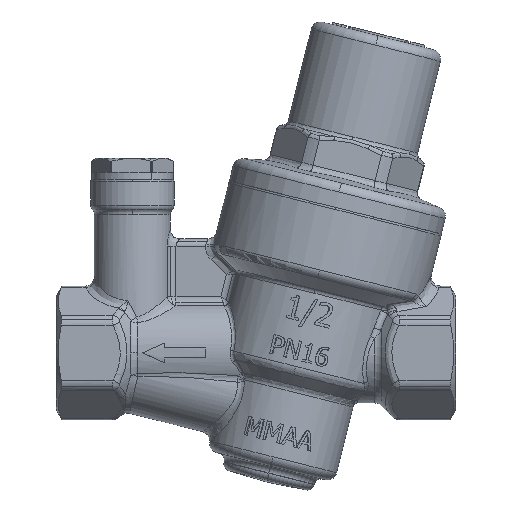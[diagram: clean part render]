
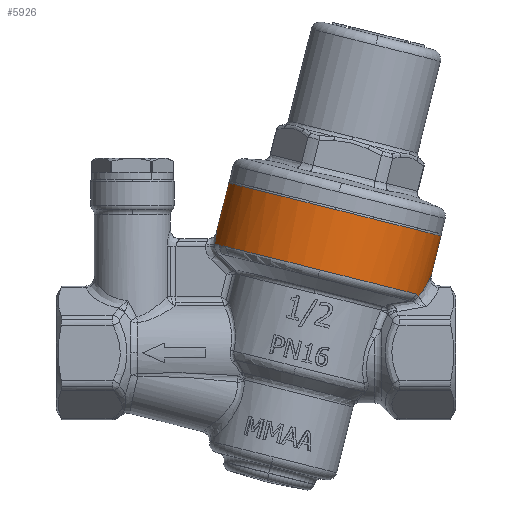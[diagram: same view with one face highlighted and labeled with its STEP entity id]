
A CAD part, top view. The second image highlights one B-rep face of the part: STEP entity #5926.
In plain terms, the highlighted cylindrical face has radius 23 mm (diameter 46 mm), a partial arc.
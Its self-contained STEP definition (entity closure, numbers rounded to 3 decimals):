
#186 = VERTEX_POINT ( 'NONE', #35662 ) ;
#233 = CARTESIAN_POINT ( 'NONE',  ( -31.893, 16.53, 0. ) ) ;
#262 = ORIENTED_EDGE ( 'NONE', *, *, #35989, .F. ) ;
#432 = CARTESIAN_POINT ( 'NONE',  ( -30.249, 13.213, -6.37 ) ) ;
#767 = DIRECTION ( 'NONE',  ( 0.242, -0.97, 0. ) ) ;
#801 = CARTESIAN_POINT ( 'NONE',  ( -31.647, 15.926, -2.07 ) ) ;
#1009 = LINE ( 'NONE', #12597, #19485 ) ;
#1151 = EDGE_CURVE ( 'NONE', #34263, #15395, #3091, .T. ) ;
#1566 = DIRECTION ( 'NONE',  ( 0.791, 0.197, 0.579 ) ) ;
#1778 = CARTESIAN_POINT ( 'NONE',  ( -8.419, 17.452, 0. ) ) ;
#2268 = DIRECTION ( 'NONE',  ( 0.242, -0.97, 0. ) ) ;
#2337 = DIRECTION ( 'NONE',  ( 0.242, -0.97, 0. ) ) ;
#2910 = CIRCLE ( 'NONE', #6491, 23. ) ;
#2958 = CARTESIAN_POINT ( 'NONE',  ( 10.723, 35.748, 0. ) ) ;
#3091 = B_SPLINE_CURVE_WITH_KNOTS ( 'NONE', 3,
 ( #26330, #3199, #432, #12194 ),
 .UNSPECIFIED., .F., .F.,
 ( 4, 4 ),
 ( 0., 1. ),
 .UNSPECIFIED. ) ;
#3199 = CARTESIAN_POINT ( 'NONE',  ( -31.106, 14.564, -4.234 ) ) ;
#3757 = VERTEX_POINT ( 'NONE', #2958 ) ;
#3771 = CARTESIAN_POINT ( 'NONE',  ( -31.779, 16.259, -1.541 ) ) ;
#3945 = CIRCLE ( 'NONE', #23592, 23. ) ;
#4139 = CARTESIAN_POINT ( 'NONE',  ( 13.499, 23.567, -3.409 ) ) ;
#5879 = CARTESIAN_POINT ( 'NONE',  ( -29.111, 11.927, -8.393 ) ) ;
#5926 = ADVANCED_FACE ( 'NONE', ( #7674 ), #16484, .T. ) ;
#6341 = DIRECTION ( 'NONE',  ( 0.162, 0.04, -0.986 ) ) ;
#6375 = CARTESIAN_POINT ( 'NONE',  ( 13.628, 22.949, -3.565 ) ) ;
#6491 = AXIS2_PLACEMENT_3D ( 'NONE', #32790, #32414, #6876 ) ;
#6539 = AXIS2_PLACEMENT_3D ( 'NONE', #22775, #767, #6341 ) ;
#6876 = DIRECTION ( 'NONE',  ( 0.791, 0.197, 0.579 ) ) ;
#7674 = FACE_OUTER_BOUND ( 'NONE', #10311, .T. ) ;
#8477 = EDGE_CURVE ( 'NONE', #9394, #27632, #1009, .T. ) ;
#9394 = VERTEX_POINT ( 'NONE', #24848 ) ;
#9749 = CARTESIAN_POINT ( 'NONE',  ( 13.253, 25.517, -1.263 ) ) ;
#10311 = EDGE_LOOP ( 'NONE', ( #24001, #11414, #36212, #36150, #33844, #262, #18238, #25712, #16284, #23574, #28455 ) ) ;
#11380 = AXIS2_PLACEMENT_3D ( 'NONE', #27778, #2268, #28148 ) ;
#11414 = ORIENTED_EDGE ( 'NONE', *, *, #25953, .F. ) ;
#11502 = EDGE_CURVE ( 'NONE', #24009, #35794, #26267, .T. ) ;
#12194 = CARTESIAN_POINT ( 'NONE',  ( -29.111, 11.927, -8.393 ) ) ;
#12597 = CARTESIAN_POINT ( 'NONE',  ( -32.356, 18.384, 0. ) ) ;
#12880 = CARTESIAN_POINT ( 'NONE',  ( -29.111, 11.927, -8.393 ) ) ;
#12982 = CARTESIAN_POINT ( 'NONE',  ( -11.594, 30.184, 0. ) ) ;
#13379 = DIRECTION ( 'NONE',  ( 0.162, 0.04, -0.986 ) ) ;
#13681 = CARTESIAN_POINT ( 'NONE',  ( -28.577, 12.426, -9.869 ) ) ;
#14006 = EDGE_CURVE ( 'NONE', #15395, #17390, #31740, .T. ) ;
#15300 = CARTESIAN_POINT ( 'NONE',  ( 13.274, 25.516, -0.153 ) ) ;
#15395 = VERTEX_POINT ( 'NONE', #5879 ) ;
#16284 = ORIENTED_EDGE ( 'NONE', *, *, #14006, .F. ) ;
#16484 = CYLINDRICAL_SURFACE ( 'NONE', #11380, 23. ) ;
#17390 = VERTEX_POINT ( 'NONE', #13681 ) ;
#17986 = CARTESIAN_POINT ( 'NONE',  ( -31.883, 16.503, -0.83 ) ) ;
#18085 = CARTESIAN_POINT ( 'NONE',  ( 13.272, 25.516, -0.307 ) ) ;
#18238 = ORIENTED_EDGE ( 'NONE', *, *, #26873, .F. ) ;
#18853 = EDGE_CURVE ( 'NONE', #3757, #35794, #24650, .T. ) ;
#19485 = VECTOR ( 'NONE', #21150, 1000. ) ;
#20234 = CIRCLE ( 'NONE', #6539, 23. ) ;
#20386 = CARTESIAN_POINT ( 'NONE',  ( -31.894, 16.53, -0.104 ) ) ;
#20649 = CARTESIAN_POINT ( 'NONE',  ( -11.594, 30.184, -23. ) ) ;
#21133 = DIRECTION ( 'NONE',  ( 0.242, -0.97, 0. ) ) ;
#21150 = DIRECTION ( 'NONE',  ( 0.242, -0.97, 0. ) ) ;
#21419 = CARTESIAN_POINT ( 'NONE',  ( 13.269, 25.516, -0.46 ) ) ;
#22558 = B_SPLINE_CURVE_WITH_KNOTS ( 'NONE', 3,
 ( #6375, #4139, #29475, #9749, #26328 ),
 .UNSPECIFIED., .F., .F.,
 ( 4, 1, 4 ),
 ( 0., 0.429, 1. ),
 .UNSPECIFIED. ) ;
#22775 = CARTESIAN_POINT ( 'NONE',  ( -8.419, 17.452, 0. ) ) ;
#23450 = EDGE_CURVE ( 'NONE', #3757, #34658, #3945, .T. ) ;
#23574 = ORIENTED_EDGE ( 'NONE', *, *, #1151, .F. ) ;
#23592 = AXIS2_PLACEMENT_3D ( 'NONE', #12982, #27078, #1566 ) ;
#24001 = ORIENTED_EDGE ( 'NONE', *, *, #8477, .F. ) ;
#24009 = VERTEX_POINT ( 'NONE', #28806 ) ;
#24227 = CARTESIAN_POINT ( 'NONE',  ( -28.81, 12.368, -9.365 ) ) ;
#24597 = CARTESIAN_POINT ( 'NONE',  ( -29.001, 12.216, -8.843 ) ) ;
#24650 = LINE ( 'NONE', #29852, #30665 ) ;
#24680 = CARTESIAN_POINT ( 'NONE',  ( 13.274, 25.516, 0. ) ) ;
#24848 = CARTESIAN_POINT ( 'NONE',  ( -33.911, 24.62, 0. ) ) ;
#25712 = ORIENTED_EDGE ( 'NONE', *, *, #34889, .F. ) ;
#25953 = EDGE_CURVE ( 'NONE', #34658, #9394, #2910, .T. ) ;
#26267 =( BOUNDED_CURVE ( )  B_SPLINE_CURVE ( 3, ( #21419, #18085, #15300, #32951 ),
 .UNSPECIFIED., .F., .F. ) 
 B_SPLINE_CURVE_WITH_KNOTS ( ( 4, 4 ),
 ( 6.263, 6.283 ),
 .UNSPECIFIED. ) 
 CURVE ( )  GEOMETRIC_REPRESENTATION_ITEM ( )  RATIONAL_B_SPLINE_CURVE ( ( 1., 1., 1., 1. ) ) 
 REPRESENTATION_ITEM ( '' )  );
#26328 = CARTESIAN_POINT ( 'NONE',  ( 13.269, 25.516, -0.46 ) ) ;
#26330 = CARTESIAN_POINT ( 'NONE',  ( -31.647, 15.926, -2.07 ) ) ;
#26622 = B_SPLINE_CURVE_WITH_KNOTS ( 'NONE', 3,
 ( #233, #20386, #17986, #3771, #801 ),
 .UNSPECIFIED., .F., .F.,
 ( 4, 1, 4 ),
 ( 0., 0.143, 1. ),
 .UNSPECIFIED. ) ;
#26873 = EDGE_CURVE ( 'NONE', #33628, #186, #20234, .T. ) ;
#27078 = DIRECTION ( 'NONE',  ( -0.242, 0.97, 0. ) ) ;
#27534 = CARTESIAN_POINT ( 'NONE',  ( -28.577, 12.426, -9.869 ) ) ;
#27632 = VERTEX_POINT ( 'NONE', #27978 ) ;
#27778 = CARTESIAN_POINT ( 'NONE',  ( -10.039, 23.948, 0. ) ) ;
#27978 = CARTESIAN_POINT ( 'NONE',  ( -31.893, 16.53, 0. ) ) ;
#28148 = DIRECTION ( 'NONE',  ( 0.97, 0.242, 0. ) ) ;
#28455 = ORIENTED_EDGE ( 'NONE', *, *, #33655, .F. ) ;
#28806 = CARTESIAN_POINT ( 'NONE',  ( 13.269, 25.516, -0.46 ) ) ;
#29475 = CARTESIAN_POINT ( 'NONE',  ( 13.284, 24.918, -2.661 ) ) ;
#29852 = CARTESIAN_POINT ( 'NONE',  ( 12.278, 29.512, 0. ) ) ;
#30665 = VECTOR ( 'NONE', #21133, 1000. ) ;
#31527 = CARTESIAN_POINT ( 'NONE',  ( -8.419, 17.452, -23. ) ) ;
#31740 = B_SPLINE_CURVE_WITH_KNOTS ( 'NONE', 3,
 ( #12880, #24597, #24227, #27534 ),
 .UNSPECIFIED., .F., .F.,
 ( 4, 4 ),
 ( 0., 1. ),
 .UNSPECIFIED. ) ;
#32414 = DIRECTION ( 'NONE',  ( -0.242, 0.97, 0. ) ) ;
#32615 = AXIS2_PLACEMENT_3D ( 'NONE', #1778, #2337, #13379 ) ;
#32790 = CARTESIAN_POINT ( 'NONE',  ( -11.594, 30.184, 0. ) ) ;
#32951 = CARTESIAN_POINT ( 'NONE',  ( 13.274, 25.516, 0. ) ) ;
#33231 = CIRCLE ( 'NONE', #32615, 23. ) ;
#33628 = VERTEX_POINT ( 'NONE', #31527 ) ;
#33655 = EDGE_CURVE ( 'NONE', #27632, #34263, #26622, .T. ) ;
#33844 = ORIENTED_EDGE ( 'NONE', *, *, #11502, .F. ) ;
#34263 = VERTEX_POINT ( 'NONE', #36579 ) ;
#34658 = VERTEX_POINT ( 'NONE', #20649 ) ;
#34889 = EDGE_CURVE ( 'NONE', #17390, #33628, #33231, .T. ) ;
#35662 = CARTESIAN_POINT ( 'NONE',  ( 13.628, 22.949, -3.565 ) ) ;
#35794 = VERTEX_POINT ( 'NONE', #24680 ) ;
#35989 = EDGE_CURVE ( 'NONE', #186, #24009, #22558, .T. ) ;
#36150 = ORIENTED_EDGE ( 'NONE', *, *, #18853, .T. ) ;
#36212 = ORIENTED_EDGE ( 'NONE', *, *, #23450, .F. ) ;
#36579 = CARTESIAN_POINT ( 'NONE',  ( -31.647, 15.926, -2.07 ) ) ;
